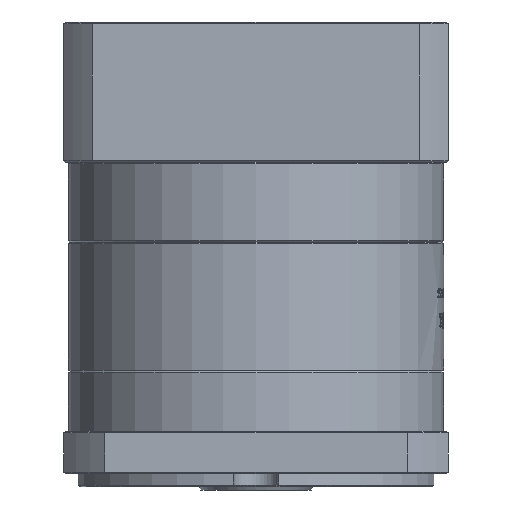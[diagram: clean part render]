
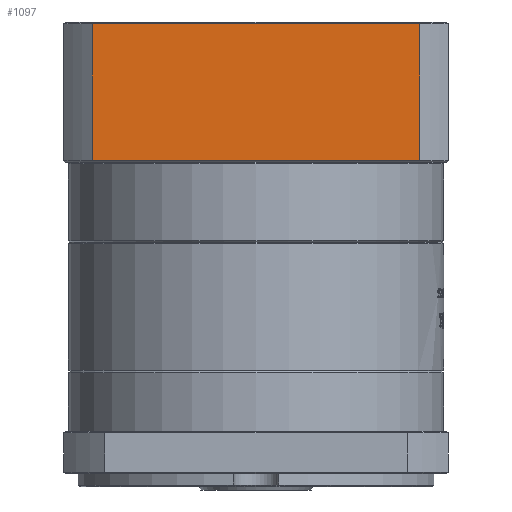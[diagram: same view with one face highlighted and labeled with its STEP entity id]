
A CAD part, front view. The second image highlights one B-rep face of the part: STEP entity #1097.
In plain terms, the highlighted planar face has unit normal (0, -1, 0).
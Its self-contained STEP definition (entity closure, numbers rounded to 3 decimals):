
#1097 = ADVANCED_FACE ( 'NONE', ( #91807 ), #79408, .F. ) ;
#1774 = AXIS2_PLACEMENT_3D ( 'NONE', #45367, #54693, #62589 ) ;
#5274 = ORIENTED_EDGE ( 'NONE', *, *, #41065, .F. ) ;
#5895 = CARTESIAN_POINT ( 'NONE',  ( 122.595, -139.873, -59.522 ) ) ;
#8276 = CARTESIAN_POINT ( 'NONE',  ( 122.595, -139.873, -17.522 ) ) ;
#11689 = LINE ( 'NONE', #8276, #58336 ) ;
#18373 = CARTESIAN_POINT ( 'NONE',  ( 22.092, -139.873, -59.522 ) ) ;
#22910 = EDGE_CURVE ( 'NONE', #94170, #71600, #86687, .T. ) ;
#28738 = DIRECTION ( 'NONE',  ( 0., 0., 1. ) ) ;
#41065 = EDGE_CURVE ( 'NONE', #58427, #77130, #11689, .T. ) ;
#41628 = ORIENTED_EDGE ( 'NONE', *, *, #51809, .F. ) ;
#45367 = CARTESIAN_POINT ( 'NONE',  ( 122.595, -139.873, -17.022 ) ) ;
#46091 = LINE ( 'NONE', #97803, #79583 ) ;
#51809 = EDGE_CURVE ( 'NONE', #77130, #71600, #52338, .T. ) ;
#52338 = LINE ( 'NONE', #69499, #96526 ) ;
#54693 = DIRECTION ( 'NONE',  ( 0., 1., 0. ) ) ;
#55352 = ORIENTED_EDGE ( 'NONE', *, *, #22910, .T. ) ;
#57980 = EDGE_CURVE ( 'NONE', #94170, #58427, #46091, .T. ) ;
#58336 = VECTOR ( 'NONE', #67969, 1000. ) ;
#58427 = VERTEX_POINT ( 'NONE', #91150 ) ;
#59793 = DIRECTION ( 'NONE',  ( 1., 0., 0. ) ) ;
#62478 = CARTESIAN_POINT ( 'NONE',  ( 122.595, -139.873, -17.522 ) ) ;
#62589 = DIRECTION ( 'NONE',  ( -1., 0., 0. ) ) ;
#64976 = ORIENTED_EDGE ( 'NONE', *, *, #57980, .F. ) ;
#67969 = DIRECTION ( 'NONE',  ( 1., 0., 0. ) ) ;
#69499 = CARTESIAN_POINT ( 'NONE',  ( 122.595, -139.873, -17.022 ) ) ;
#71600 = VERTEX_POINT ( 'NONE', #5895 ) ;
#72041 = VECTOR ( 'NONE', #59793, 1000. ) ;
#77130 = VERTEX_POINT ( 'NONE', #62478 ) ;
#79408 = PLANE ( 'NONE',  #1774 ) ;
#79583 = VECTOR ( 'NONE', #28738, 1000. ) ;
#85519 = DIRECTION ( 'NONE',  ( 0., 0., -1. ) ) ;
#86687 = LINE ( 'NONE', #102382, #72041 ) ;
#91150 = CARTESIAN_POINT ( 'NONE',  ( 22.092, -139.873, -17.522 ) ) ;
#91807 = FACE_OUTER_BOUND ( 'NONE', #101469, .T. ) ;
#94170 = VERTEX_POINT ( 'NONE', #18373 ) ;
#96526 = VECTOR ( 'NONE', #85519, 1000. ) ;
#97803 = CARTESIAN_POINT ( 'NONE',  ( 22.092, -139.873, -17.022 ) ) ;
#101469 = EDGE_LOOP ( 'NONE', ( #5274, #64976, #55352, #41628 ) ) ;
#102382 = CARTESIAN_POINT ( 'NONE',  ( 122.595, -139.873, -59.522 ) ) ;
